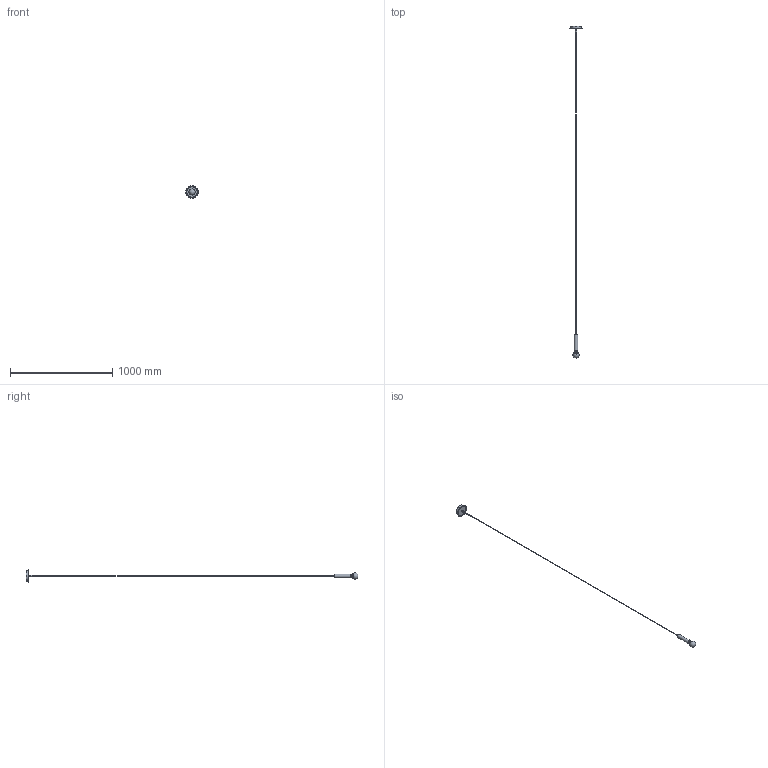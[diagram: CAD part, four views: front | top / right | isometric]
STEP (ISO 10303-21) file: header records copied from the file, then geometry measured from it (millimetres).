
FILE_DESCRIPTION(/* description */ (''),/* implementation_level */ '2;1');
FILE_NAME(/* name */ 'C:\Users\Giulia\Desktop\1761 - LED IS MORE 1.stp',/* time_stamp */ '2015-04-22T11:36:39+02:00',/* author */ ('Giulia'),/* organization */ (''),/* preprocessor_version */ 'ST-DEVELOPER v15.6',/* originating_system */ 'Autodesk Inventor 2015',/* authorisation */ '');
FILE_SCHEMA (('AUTOMOTIVE_DESIGN { 1 0 10303 214 3 1 1 }'));
Length unit declared in the file: centimetre
Products named in the file (1): 1761 - LED IS MORE 1
Bounding box: 120 x 3249.78 x 120 mm (x, y, z)
Volume: 586283.8 mm3; surface area: 112771.2 mm2
Topology: 2 solids, 2 shells, 29 faces, 50 edges, 31 vertices
Faces by surface type: cylinder 12, plane 10, cone 4, torus 2, sphere 1
Full cylindrical faces by diameter (mm): 5 x1, 5.5 x1, 6.6 x1, 6.75 x1, 8.917 x2, 15 x2, 35 x2, 105 x1, 120 x1
Entity records: 643 total; most frequent: DIRECTION 116, CARTESIAN_POINT 86, AXIS2_PLACEMENT_3D 58, EDGE_LOOP 56, ORIENTED_EDGE 56, ADVANCED_FACE 29, FACE_BOUND 28, FACE_OUTER_BOUND 28
